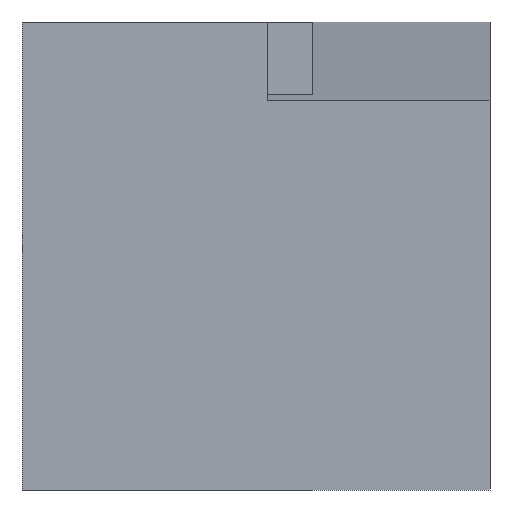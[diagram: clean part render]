
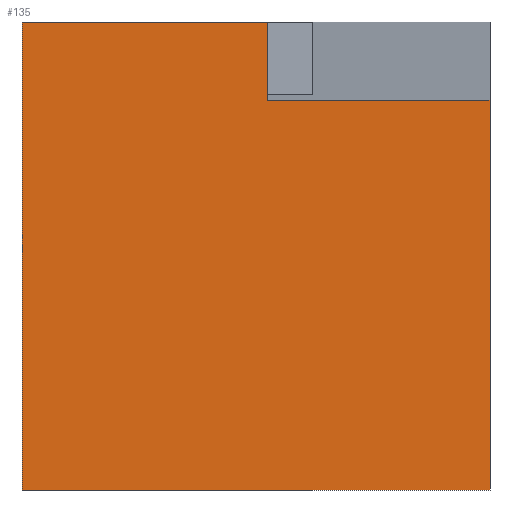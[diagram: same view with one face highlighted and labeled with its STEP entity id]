
A CAD part, front view. The second image highlights one B-rep face of the part: STEP entity #135.
In plain terms, the highlighted planar face has unit normal (0, -1, 0).
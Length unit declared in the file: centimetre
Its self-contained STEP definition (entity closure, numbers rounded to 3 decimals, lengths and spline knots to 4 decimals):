
#6 = LINE ( 'NONE', #152, #94 ) ;
#17 = VECTOR ( 'NONE', #342, 100. ) ;
#24 = CARTESIAN_POINT ( 'NONE',  ( 0., 0., 1000. ) ) ;
#36 = EDGE_CURVE ( 'NONE', #345, #114, #196, .T. ) ;
#41 = ORIENTED_EDGE ( 'NONE', *, *, #177, .F. ) ;
#50 = EDGE_CURVE ( 'NONE', #289, #114, #6, .T. ) ;
#75 = ORIENTED_EDGE ( 'NONE', *, *, #50, .T. ) ;
#94 = VECTOR ( 'NONE', #399, 100. ) ;
#105 = VERTEX_POINT ( 'NONE', #454 ) ;
#112 = LINE ( 'NONE', #287, #372 ) ;
#114 = VERTEX_POINT ( 'NONE', #136 ) ;
#130 = ORIENTED_EDGE ( 'NONE', *, *, #36, .F. ) ;
#135 = ADVANCED_FACE ( 'NONE', ( #206 ), #381, .F. ) ;
#136 = CARTESIAN_POINT ( 'NONE',  ( 1000., 0., 0. ) ) ;
#152 = CARTESIAN_POINT ( 'NONE',  ( 0., 0., 0. ) ) ;
#177 = EDGE_CURVE ( 'NONE', #218, #273, #244, .T. ) ;
#181 = ORIENTED_EDGE ( 'NONE', *, *, #241, .F. ) ;
#186 = LINE ( 'NONE', #214, #380 ) ;
#196 = LINE ( 'NONE', #298, #17 ) ;
#201 = EDGE_CURVE ( 'NONE', #218, #289, #391, .T. ) ;
#203 = DIRECTION ( 'NONE',  ( 0., 0., 1. ) ) ;
#206 = FACE_OUTER_BOUND ( 'NONE', #382, .T. ) ;
#211 = CARTESIAN_POINT ( 'NONE',  ( 1000., 0., 832.7375 ) ) ;
#214 = CARTESIAN_POINT ( 'NONE',  ( 524.8506, 0., 832.7375 ) ) ;
#218 = VERTEX_POINT ( 'NONE', #334 ) ;
#220 = CARTESIAN_POINT ( 'NONE',  ( 0., 0., 1000. ) ) ;
#239 = DIRECTION ( 'NONE',  ( 1., 0., 0. ) ) ;
#241 = EDGE_CURVE ( 'NONE', #273, #105, #112, .T. ) ;
#244 = LINE ( 'NONE', #24, #352 ) ;
#245 = ORIENTED_EDGE ( 'NONE', *, *, #272, .F. ) ;
#272 = EDGE_CURVE ( 'NONE', #105, #345, #186, .T. ) ;
#273 = VERTEX_POINT ( 'NONE', #358 ) ;
#274 = AXIS2_PLACEMENT_3D ( 'NONE', #315, #346, #203 ) ;
#286 = ORIENTED_EDGE ( 'NONE', *, *, #201, .T. ) ;
#287 = CARTESIAN_POINT ( 'NONE',  ( 524.8506, 0., 832.7375 ) ) ;
#289 = VERTEX_POINT ( 'NONE', #464 ) ;
#298 = CARTESIAN_POINT ( 'NONE',  ( 1000., 0., 1000. ) ) ;
#315 = CARTESIAN_POINT ( 'NONE',  ( 0., 0., 1000. ) ) ;
#323 = DIRECTION ( 'NONE',  ( 1., 0., 0. ) ) ;
#334 = CARTESIAN_POINT ( 'NONE',  ( 0., 0., 1000. ) ) ;
#342 = DIRECTION ( 'NONE',  ( 0., 0., -1. ) ) ;
#345 = VERTEX_POINT ( 'NONE', #211 ) ;
#346 = DIRECTION ( 'NONE',  ( 0., 1., 0. ) ) ;
#352 = VECTOR ( 'NONE', #239, 100. ) ;
#358 = CARTESIAN_POINT ( 'NONE',  ( 524.8506, 0., 1000. ) ) ;
#364 = DIRECTION ( 'NONE',  ( 0., 0., -1. ) ) ;
#372 = VECTOR ( 'NONE', #394, 100. ) ;
#380 = VECTOR ( 'NONE', #323, 100. ) ;
#381 = PLANE ( 'NONE',  #274 ) ;
#382 = EDGE_LOOP ( 'NONE', ( #130, #245, #181, #41, #286, #75 ) ) ;
#387 = VECTOR ( 'NONE', #364, 100. ) ;
#391 = LINE ( 'NONE', #220, #387 ) ;
#394 = DIRECTION ( 'NONE',  ( 0., 0., -1. ) ) ;
#399 = DIRECTION ( 'NONE',  ( 1., 0., 0. ) ) ;
#454 = CARTESIAN_POINT ( 'NONE',  ( 524.8506, 0., 832.7375 ) ) ;
#464 = CARTESIAN_POINT ( 'NONE',  ( 0., 0., 0. ) ) ;
